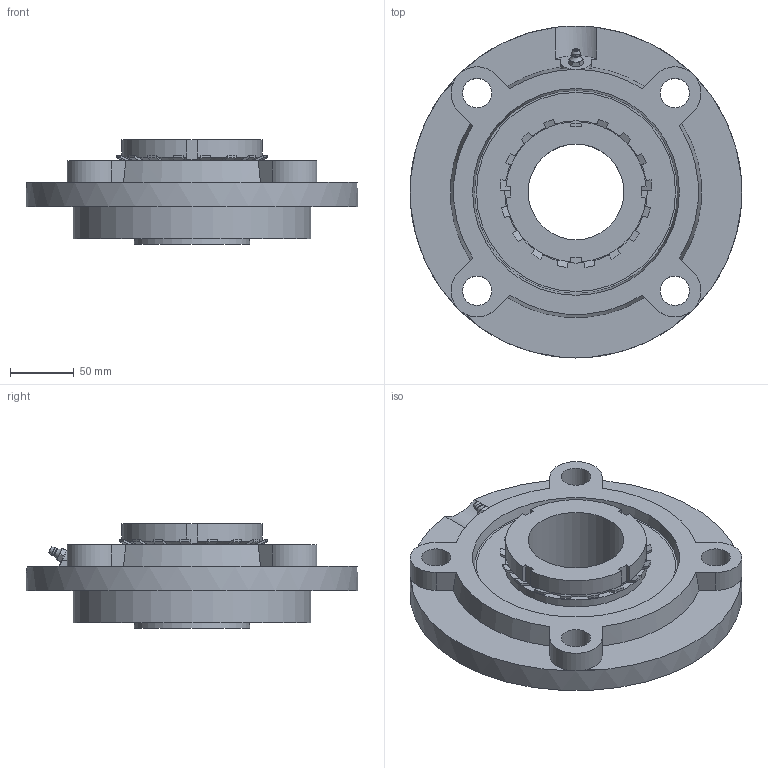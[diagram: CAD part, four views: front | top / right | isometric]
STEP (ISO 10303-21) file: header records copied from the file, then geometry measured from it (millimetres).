
FILE_DESCRIPTION((''),'2;1');
FILE_NAME('\\Ts-tgl068\j-cad-d-base\00.3DCADデータ作成フォルダ\02.フランジ形\UKFCX\UKFCX17+H.stp','2014-12-10T08:25:42',('btec_1106_2'),(''),'Autodesk Inventor 2012','Autodesk Inventor 2012','');
FILE_SCHEMA(('AUTOMOTIVE_DESIGN { 1 0 10303 214 1 1 1 1 }'));
Length unit declared in the file: millimetre
Products named in the file (4): UKFCX00+H; FCX17; UKX17+H; G1
Assembly tree (3 placements, depth 2):
  UKFCX00+H
    FCX17
    UKX17+H
    G1
Bounding box: 260 x 260 x 82 mm (x, y, z)
Volume: 1703798.2 mm3; surface area: 241332.3 mm2
Topology: 3 solids, 3 shells, 206 faces, 525 edges, 333 vertices
Faces by surface type: plane 90, cylinder 56, cone 54, sphere 4, torus 2
Full cylindrical faces by diameter (mm): 8.566 x1, 9.728 x1, 23 x4, 75 x1, 85 x1, 111.5 x2, 186 x1, 260 x1
Entity records: 6169 total; most frequent: CARTESIAN_POINT 1339, ORIENTED_EDGE 992, DIRECTION 988, EDGE_CURVE 496, AXIS2_PLACEMENT_3D 399, VERTEX_POINT 326, EDGE_LOOP 252, FACE_OUTER_BOUND 206
